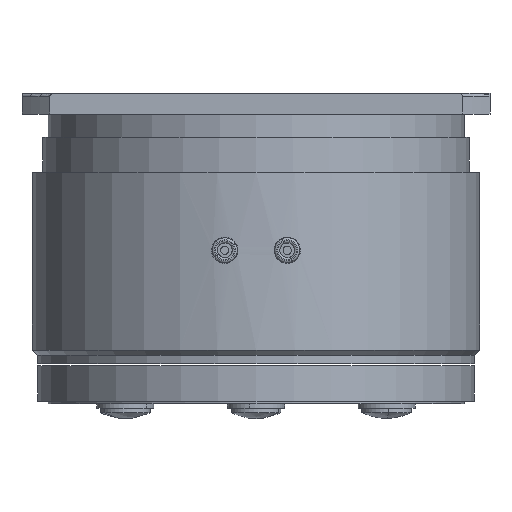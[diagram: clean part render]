
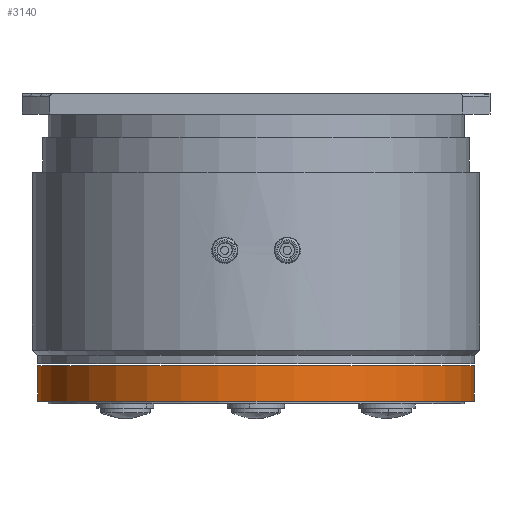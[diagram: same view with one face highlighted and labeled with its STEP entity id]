
A CAD part, front view. The second image highlights one B-rep face of the part: STEP entity #3140.
In plain terms, the highlighted cylindrical face has radius 21 mm (diameter 42 mm), a partial arc.
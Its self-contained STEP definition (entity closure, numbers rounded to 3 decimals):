
#60 = VECTOR ( 'NONE', #3180, 1000. ) ;
#131 = DIRECTION ( 'NONE',  ( 0., 0., 1. ) ) ;
#134 = DIRECTION ( 'NONE',  ( 1., 0., 0. ) ) ;
#186 = EDGE_CURVE ( 'NONE', #5667, #1900, #6277, .T. ) ;
#196 = CARTESIAN_POINT ( 'NONE',  ( 0., 0., -3.4 ) ) ;
#647 = CARTESIAN_POINT ( 'NONE',  ( 21., 0., -3.4 ) ) ;
#789 = ORIENTED_EDGE ( 'NONE', *, *, #1928, .T. ) ;
#929 = EDGE_LOOP ( 'NONE', ( #1350, #5105, #789, #1077 ) ) ;
#1077 = ORIENTED_EDGE ( 'NONE', *, *, #1099, .F. ) ;
#1099 = EDGE_CURVE ( 'NONE', #4944, #1664, #3113, .T. ) ;
#1125 = LINE ( 'NONE', #2150, #4097 ) ;
#1200 = EDGE_CURVE ( 'NONE', #5667, #4944, #1125, .T. ) ;
#1221 = AXIS2_PLACEMENT_3D ( 'NONE', #196, #131, #1605 ) ;
#1350 = ORIENTED_EDGE ( 'NONE', *, *, #1200, .F. ) ;
#1510 = CARTESIAN_POINT ( 'NONE',  ( 0., 0., 2.806 ) ) ;
#1526 = DIRECTION ( 'NONE',  ( 0., 0., 1. ) ) ;
#1605 = DIRECTION ( 'NONE',  ( 1., 0., 0. ) ) ;
#1610 = DIRECTION ( 'NONE',  ( 0., 0., 1. ) ) ;
#1664 = VERTEX_POINT ( 'NONE', #2214 ) ;
#1900 = VERTEX_POINT ( 'NONE', #647 ) ;
#1928 = EDGE_CURVE ( 'NONE', #1900, #1664, #5680, .T. ) ;
#2095 = CARTESIAN_POINT ( 'NONE',  ( 0., 0., 0. ) ) ;
#2114 = CYLINDRICAL_SURFACE ( 'NONE', #5201, 21. ) ;
#2150 = CARTESIAN_POINT ( 'NONE',  ( -21., 0., 2.806 ) ) ;
#2214 = CARTESIAN_POINT ( 'NONE',  ( 21., 0., 0. ) ) ;
#2238 = CARTESIAN_POINT ( 'NONE',  ( -21., 0., -3.4 ) ) ;
#2593 = CARTESIAN_POINT ( 'NONE',  ( 21., 0., 2.806 ) ) ;
#3113 = CIRCLE ( 'NONE', #4266, 21. ) ;
#3140 = ADVANCED_FACE ( 'NONE', ( #4570 ), #2114, .T. ) ;
#3180 = DIRECTION ( 'NONE',  ( 0., 0., 1. ) ) ;
#4097 = VECTOR ( 'NONE', #1526, 1000. ) ;
#4123 = DIRECTION ( 'NONE',  ( 0., 0., 1. ) ) ;
#4266 = AXIS2_PLACEMENT_3D ( 'NONE', #2095, #4123, #5607 ) ;
#4570 = FACE_OUTER_BOUND ( 'NONE', #929, .T. ) ;
#4944 = VERTEX_POINT ( 'NONE', #6405 ) ;
#5105 = ORIENTED_EDGE ( 'NONE', *, *, #186, .T. ) ;
#5201 = AXIS2_PLACEMENT_3D ( 'NONE', #1510, #1610, #134 ) ;
#5607 = DIRECTION ( 'NONE',  ( 1., 0., 0. ) ) ;
#5667 = VERTEX_POINT ( 'NONE', #2238 ) ;
#5680 = LINE ( 'NONE', #2593, #60 ) ;
#6277 = CIRCLE ( 'NONE', #1221, 21. ) ;
#6405 = CARTESIAN_POINT ( 'NONE',  ( -21., 0., 0. ) ) ;
